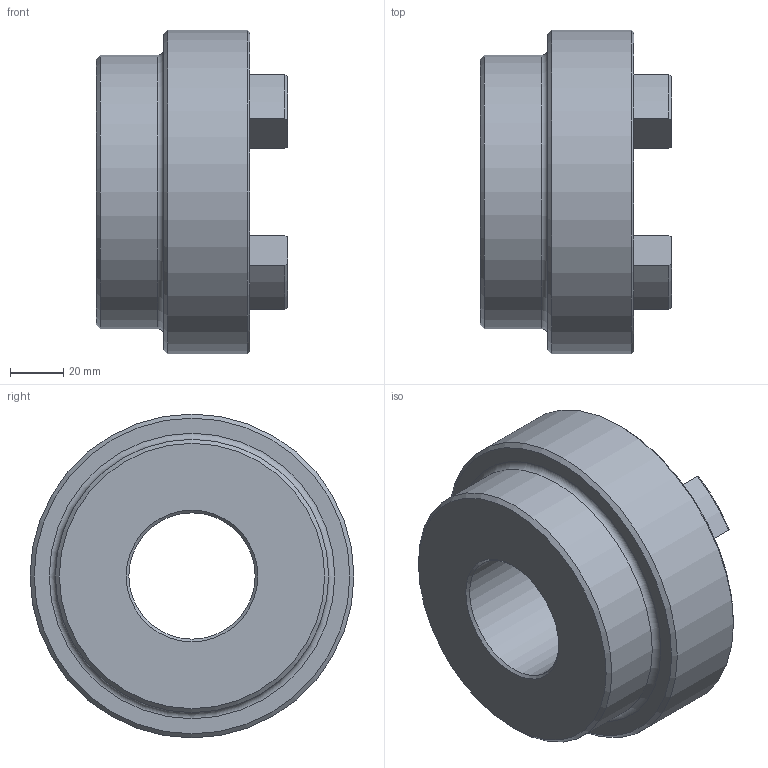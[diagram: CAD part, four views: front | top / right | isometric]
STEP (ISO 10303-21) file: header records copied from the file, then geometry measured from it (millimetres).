
FILE_DESCRIPTION (( 'STEP AP203' ), '1' );
FILE_NAME ('RC5.step', '2024-07-25T13:37:13', ( 'Adlan' ), ( '' ), 'SwSTEP 2.0', 'SolidWorks 2013', '' );
FILE_SCHEMA (( 'CONFIG_CONTROL_DESIGN' ));
Length unit declared in the file: inch
Products named in the file (1): RC5
Bounding box: 72.14 x 122.17 x 122.17 mm (x, y, z)
Volume: 406169.3 mm3; surface area: 58294 mm2
Topology: 1 solids, 1 shells, 76 faces, 189 edges, 117 vertices
Faces by surface type: cylinder 31, torus 17, plane 16, cone 12
Full cylindrical faces by diameter (mm): 47.638 x1, 103.124 x1, 122.174 x1
Entity records: 2349 total; most frequent: CARTESIAN_POINT 443, DIRECTION 416, ORIENTED_EDGE 358, EDGE_CURVE 179, AXIS2_PLACEMENT_3D 168, VERTEX_POINT 115, CIRCLE 91, EDGE_LOOP 88
